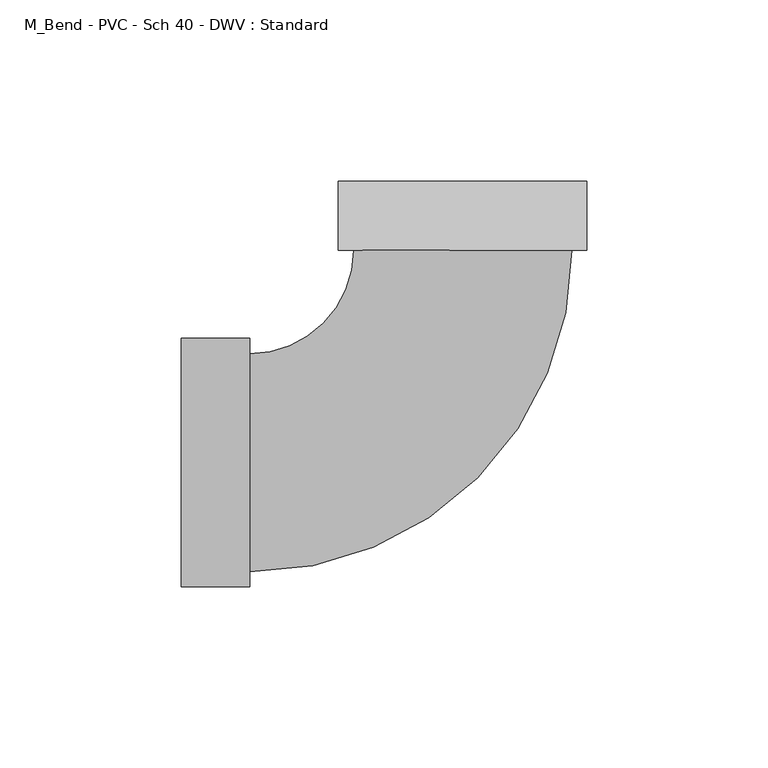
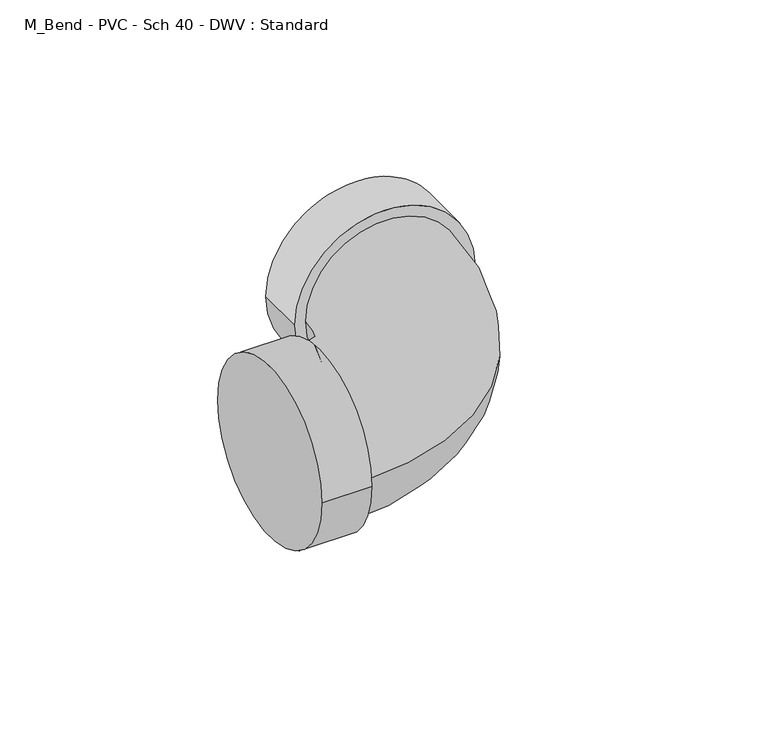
"""IFC4 building model written with IfcOpenShell, lengths in millimetres: pipe fitting geometry, M_Bend - PVC - Sch 40 - DWV : Standard."""

from ifc_helpers import new_model, si_unit, point, frame, origin, place, context, project, spatial, circle_curve, ellipse_curve, trimmed, source, transform, mapped, element, save
from ifc_brep_helpers import plane_surface, cylinder_surface, revolved_surface, advanced_brep


def m_bend_pvc_sch_40_dwv_standard_123b45f9(model_context):
    return source(origin(), model_context, "Body", "AdvancedBrep", [
        advanced_brep(
        [(-77.8002, -34.3154, 0.0), (-77.8002, 34.3154, 0.0), (-58.7502, -34.3154, 0.0), (-58.7502, 34.3154, 0.0), (-58.7502, -30.1625, 0.0), (-58.7502, 30.1625, 0.0), (-30.156626, 58.7532154, 0.0), (30.1683737, 58.747184, 0.0), (34.3212737, 58.7467688, 0.0), (-34.309526, 58.7536306, 0.0), (34.3231783, 77.7967687, 0.0), (-34.3076213, 77.8036305, 0.0)],
        [
            (0, 1, circle_curve(frame((-77.8002, 0.0, 0.0), z_axis=(-1.0, 0.0, 0.0), x_axis=(0.0, 1.0, 0.0)), 34.3154)),
            (1, 0, circle_curve(frame((-77.8002, 0.0, 0.0), z_axis=(-1.0, 0.0, 0.0), x_axis=(0.0, 1.0, 0.0)), 34.3154)),
            (2, 3, circle_curve(frame((-58.7502, 0.0, 0.0), z_axis=(1.0, 0.0, 0.0), x_axis=(0.0, 1.0, 0.0)), 34.3154)),
            (3, 2, circle_curve(frame((-58.7502, 0.0, 0.0), z_axis=(1.0, 0.0, 0.0), x_axis=(0.0, 1.0, 0.0)), 34.3154)),
            (4, 5, circle_curve(frame((-58.7502, 0.0, 0.0), z_axis=(-1.0, 0.0, 0.0), x_axis=(0.0, 1.0, 0.0)), 30.1625)),
            (5, 4, circle_curve(frame((-58.7502, 0.0, 0.0), z_axis=(-1.0, 0.0, 0.0), x_axis=(0.0, 1.0, 0.0)), 30.1625)),
            (0, 2),
            (3, 1),
            (6, 5, circle_curve(frame((-58.7502, 58.7560742, 0.0), z_axis=(0.0, 0.0, -1.0), x_axis=(0.0, -1.0, 0.0)), 28.5935742)),
            (4, 7, circle_curve(frame((-58.7502, 58.7560742, 0.0), z_axis=(0.0, 0.0, 1.0), x_axis=(0.0, -1.0, 0.0)), 88.9185742)),
            (7, 6, circle_curve(frame((0.0058739, 58.7501997, 0.0), z_axis=(-9.998042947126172e-05, -0.9999999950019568, 0.0), x_axis=(-0.9999999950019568, 9.998042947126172e-05, 0.0)), 30.1625)),
            (6, 7, circle_curve(frame((0.0058739, 58.7501997, 0.0), z_axis=(-9.998042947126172e-05, -0.9999999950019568, 0.0), x_axis=(-0.9999999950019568, 9.998042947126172e-05, 0.0)), 30.1625)),
            (8, 9, circle_curve(frame((0.0058739, 58.7501997, 0.0), z_axis=(-9.99804294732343e-05, -0.9999999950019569, 0.0), x_axis=(-0.9999999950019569, 9.99804294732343e-05, 0.0)), 34.3154)),
            (9, 8, circle_curve(frame((0.0058739, 58.7501997, 0.0), z_axis=(-9.99804294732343e-05, -0.9999999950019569, 0.0), x_axis=(-0.9999999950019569, 9.99804294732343e-05, 0.0)), 34.3154)),
            (10, 11, circle_curve(frame((0.0077785, 77.8001996, 0.0), z_axis=(9.99804294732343e-05, 0.9999999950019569, 0.0), x_axis=(-0.9999999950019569, 9.99804294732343e-05, 0.0)), 34.3154)),
            (11, 10, circle_curve(frame((0.0077785, 77.8001996, 0.0), z_axis=(9.99804294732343e-05, 0.9999999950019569, 0.0), x_axis=(-0.9999999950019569, 9.99804294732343e-05, 0.0)), 34.3154)),
            (8, 10),
            (11, 9),
        ],
        [
            plane_surface(frame((-77.8002, 0.0, 0.0), z_axis=(-1.0, 0.0, 0.0), x_axis=(0.0, 0.0, 1.0))),
            plane_surface(frame((-58.7502, 0.0, 0.0), z_axis=(1.0, 0.0, 0.0), x_axis=(0.0, 0.0, 1.0))),
            cylinder_surface(frame((-77.8002, 0.0, 0.0), z_axis=(-1.0, 0.0, 0.0), x_axis=(0.0, 1.0, 0.0)), 34.3154),
            revolved_surface(trimmed(ellipse_curve(frame((-58.7502, 0.0, 0.0), z_axis=(-1.0, 0.0, 0.0), x_axis=(0.0, 1.0, 0.0)), 30.1625, 30.1625), [point((-58.7502, -30.1625, 0.0))], [point((-58.7502, 30.1625, 0.0))], True, "CARTESIAN"), (-58.7502, 58.7560742, 0.0), (0.0, 0.0, 1.0)),
            revolved_surface(trimmed(ellipse_curve(frame((-58.7502, 0.0, 0.0), z_axis=(-1.0, 0.0, 0.0), x_axis=(0.0, 1.0, 0.0)), 30.1625, 30.1625), [point((-58.7502, 30.1625, 0.0))], [point((-58.7502, -30.1625, 0.0))], True, "CARTESIAN"), (-58.7502, 58.7560742, 0.0), (0.0, 0.0, 1.0)),
            plane_surface(frame((0.0058739, 58.7501997, 0.0), z_axis=(-9.99804294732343e-05, -0.9999999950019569, 0.0), x_axis=(0.0, 0.0, 1.0))),
            plane_surface(frame((0.0077785, 77.8001996, 0.0), z_axis=(9.99804294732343e-05, 0.9999999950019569, 0.0), x_axis=(0.0, 0.0, 1.0))),
            cylinder_surface(frame((0.0058739, 58.7501997, 0.0), z_axis=(-9.99804294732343e-05, -0.9999999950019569, 0.0), x_axis=(-0.9999999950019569, 9.99804294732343e-05, 0.0)), 34.3154),
        ],
        [
            (0, [[1, 2]]),
            (1, [[3, 4], [5, 6]]),
            (2, [[-1, 7, -4, 8]]),
            (2, [[-2, -8, -3, -7]]),
            (3, [[9, -5, 10, 11]]),
            (4, [[-9, 12, -10, -6]]),
            (5, [[13, 14], [-11, -12]]),
            (6, [[15, 16]]),
            (7, [[-13, 17, -16, 18]]),
            (7, [[-14, -18, -15, -17]]),
        ],
    ),
    ])


if __name__ == "__main__":
    model = new_model("IFC4")
    model_context = context("Model", 3, world=origin())
    ifc_project = project(units=[si_unit("LENGTHUNIT", "METRE", prefix="MILLI")], contexts=[model_context])
    site = spatial("IfcSite", under=ifc_project)
    building = spatial("IfcBuilding", under=site)
    placement = place(None, origin())
    m_bend_pvc_sch_40_dwv_standard_shape = m_bend_pvc_sch_40_dwv_standard_123b45f9(model_context)
    element("IfcPipeFitting", 1, ObjectType="M_Bend - PVC - Sch 40 - DWV : Standard", at=placement, inside=building, context=model_context, shape_type="MappedRepresentation", body=[
        mapped(m_bend_pvc_sch_40_dwv_standard_shape, transform((0.0, 0.0, 0.0), x_axis=(1.0, 0.0, 0.0), y_axis=(0.0, 1.0, 0.0), z_axis=(0.0, 0.0, 1.0))),
    ])
    save(model, "model.ifc")
